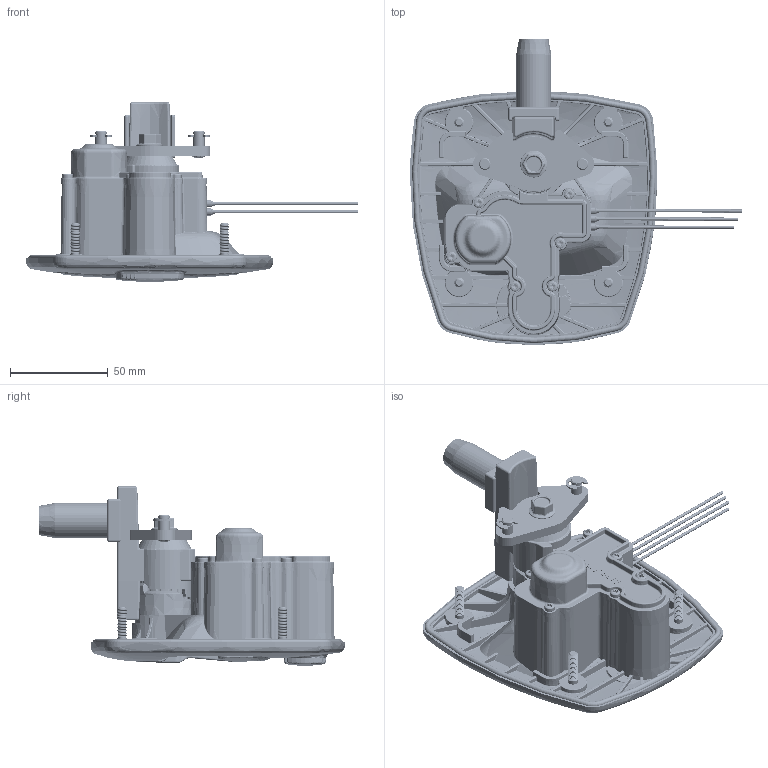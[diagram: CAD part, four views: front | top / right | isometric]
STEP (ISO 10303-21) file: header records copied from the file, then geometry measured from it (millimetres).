
FILE_DESCRIPTION (( 'STEP AP214' ), '1' );
FILE_NAME ('2752-20626012-04_Industrilas.step', '2022-04-12T03:45:47', ( '' ), ( '' ), 'SwSTEP 2.0', 'SolidWorks 2010', '' );
FILE_SCHEMA (( 'AUTOMOTIVE_DESIGN' ));
Length unit declared in the file: millimetre
Products named in the file (42): 00146952-18; 00125059(PurPac)-18; 00130713-18; 00157446(Cables_only)-18; 00109503-18; 00144636(5 B Straight)-18; 00144636(6 G Straight)-18; 00144636(3 Y Straight)-18; 00144636(4 Y Straight)-18; 00144636(1 W Straight)-18; 00144636(2 W Straight)-18; 00001807(Default)-3; 275020-14s-001(275020-14S-001)-3; 052087-5(NITAD)-11; 275020-21-v-2; 275020-9(275020-9-4)-2; 275020-9-3-6; 2321s1401-r05-6; 275020-9-1-6; 012115-45(012115-45)-6; 00007186(Default)-18; 00003160-18; Cylinder_751; 00003163-18; 00003162-18; 00124989(Purpack)-18; 00124954(Default)-18; 00129950(Vector 3C 275202-50-002010)-8; 00129747-8; 00157372-18; 00086199-18; 297001-18; 275020-8(Default)-18; 297017-18; 00120601(Syrafast)-18; 00127963-18; 00127962(Default)-18; 275020-18-18; 00130449-18; 062190-11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
Assembly tree (56 placements, depth 3):
  2752-20626012-04_Industrilas
    062190-11  x2
    275020-8(Default)-18
    275020-18-18
    00157372-18  x6
    00127962(Default)-18
    00124954(Default)-18
    297017-18
    00086199-18
    00120601(Syrafast)-18
    00001807(Default)-3
      052087-5(NITAD)-11  x2
      275020-14s-001(275020-14S-001)-3
    012103-20gf-3
    00129950(Vector 3C 275202-50-002010)-8
    00124989(Purpack)-18
    00127963-18
    297001-18
    00146952-18
      00130713-18  x4
      00125059(PurPac)-18
    00157446(Cables_only)-18
      00144636(1 W Straight)-18
      00144636(6 G Straight)-18
      00144636(2 W Straight)-18
      00144636(4 Y Straight)-18
      00144636(3 Y Straight)-18
      00144636(5 B Straight)-18
      00109503-18
    275020-21-v-2
      2321s1401-r05-6
      275020-9-3-6
      275020-9-1-6
      275020-9(275020-9-4)-2
      012115-45(012115-45)-6
    00130449-18
    00007186(Default)-18
      00003162-18  x6
      00003160-18
      Cylinder_751
      00003163-18
    00129747-8
Bounding box: 169.72 x 156.46 x 91.75 mm (x, y, z)
Volume: 208049.2 mm3; surface area: 143066.5 mm2
Topology: 51 solids, 51 shells, 8948 faces, 22971 edges, 14131 vertices
Faces by surface type: plane 2780, cylinder 2286, bspline 1640, cone 1221, torus 656, sphere 365
Entity records: 235762 total; most frequent: CARTESIAN_POINT 97144, ORIENTED_EDGE 29338, DIRECTION 26212, EDGE_CURVE 14669, AXIS2_PLACEMENT_3D 10548, VERTEX_POINT 8866, EDGE_LOOP 6211, FACE_OUTER_BOUND 6009
